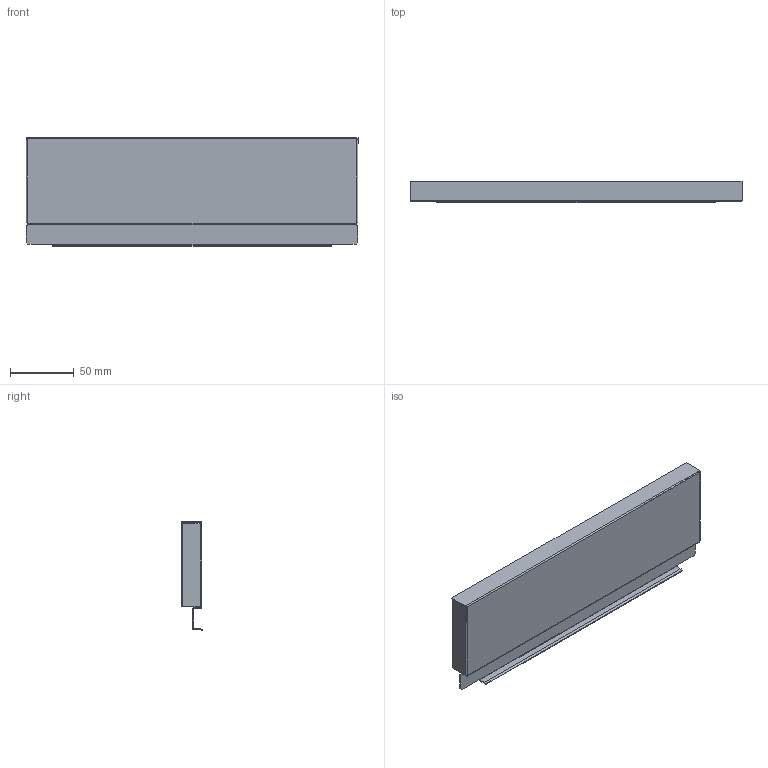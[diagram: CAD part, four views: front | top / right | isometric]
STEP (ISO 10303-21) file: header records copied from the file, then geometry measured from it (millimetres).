
FILE_DESCRIPTION (( 'STEP AP214' ), '1' );
FILE_NAME ('_STRW_H90_KAB_350.step', '2010-08-24T14:40:12', ( 'grass' ), ( '' ), 'SwSTEP 2.0', 'SolidWorks 2009', '' );
FILE_SCHEMA (( 'AUTOMOTIVE_DESIGN' ));
Length unit declared in the file: millimetre
Products named in the file (1): _STRW_H90_KAB_350
Bounding box: 260 x 17 x 85.14 mm (x, y, z)
Volume: 25104.3 mm3; surface area: 63434.5 mm2
Topology: 1 solids, 1 shells, 76 faces, 214 edges, 140 vertices
Faces by surface type: plane 54, cylinder 22
Entity records: 2472 total; most frequent: CARTESIAN_POINT 431, ORIENTED_EDGE 428, DIRECTION 412, EDGE_CURVE 214, LINE 170, VECTOR 170, VERTEX_POINT 140, AXIS2_PLACEMENT_3D 121
